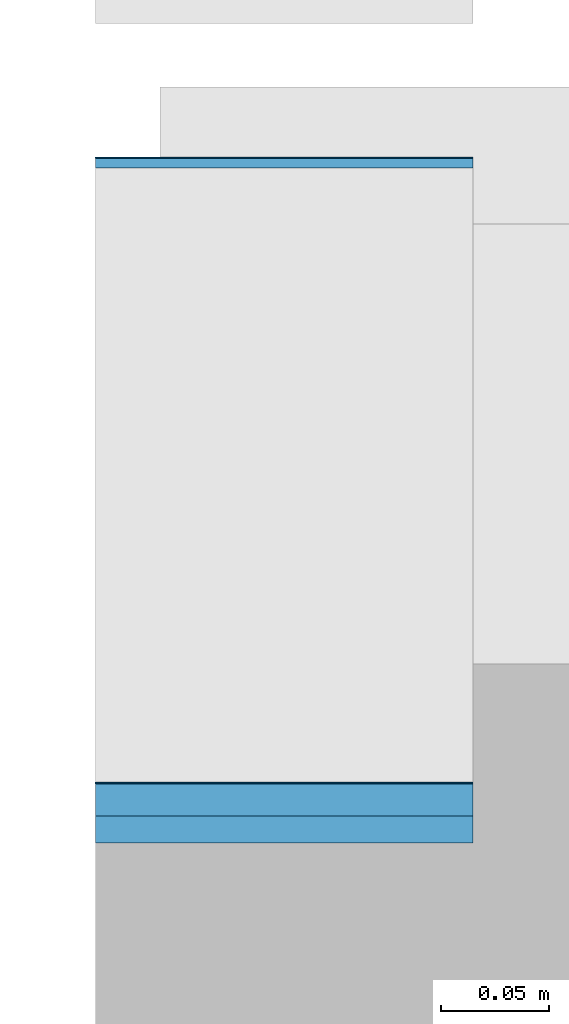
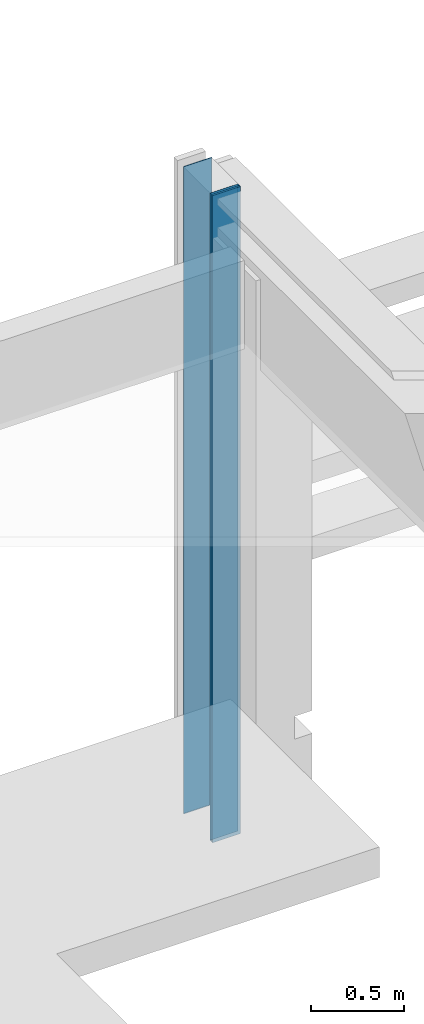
# One storey, part 27 of 54: 5 building element parts, 1 element without a shape of its own.
"""IFC2X3 building model written with IfcOpenShell, lengths in millimetres."""

from ifc_helpers import new_model, entity, si_unit, converted_unit, derived_unit, money_unit, direction, frame, origin_with_axes, place, context, subcontext, project, spatial, faceted_brep, material, type_object, element, aggregate, save


model = new_model("IFC2X3")

# Units and contexts
model_context = context("Model", 3, precision=0.01, world=origin_with_axes(), true_north=direction((0.0, 1.0)))
body_context = subcontext(model_context, "Body", "Model", "MODEL_VIEW")
ifc_project = project(units=[si_unit("LENGTHUNIT", "METRE", prefix="MILLI"), si_unit("AREAUNIT", "SQUARE_METRE"), si_unit("VOLUMEUNIT", "CUBIC_METRE"), converted_unit("PLANEANGLEUNIT", "DEGREE", entity("IfcPlaneAngleMeasure", 0.0174532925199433), si_unit("PLANEANGLEUNIT", "RADIAN"), dimensions=[0, 0, 0, 0, 0, 0, 0]), money_unit("EUR"), converted_unit("TIMEUNIT", "Year", entity("IfcTimeMeasure", 31557600.0), si_unit("TIMEUNIT", "SECOND"), dimensions=[0, 0, 1, 0, 0, 0, 0]), si_unit("MASSUNIT", "GRAM", prefix="KILO"), si_unit("THERMODYNAMICTEMPERATUREUNIT", "DEGREE_CELSIUS"), si_unit("LUMINOUSINTENSITYUNIT", "LUMEN"), si_unit("ENERGYUNIT", "JOULE", prefix="MEGA"), derived_unit("THERMALCONDUCTANCEUNIT", [(si_unit("POWERUNIT", "WATT"), 1), (si_unit("LENGTHUNIT", "METRE"), -1), (si_unit("THERMODYNAMICTEMPERATUREUNIT", "KELVIN"), -1)]), derived_unit("SPECIFICHEATCAPACITYUNIT", [(si_unit("ENERGYUNIT", "JOULE"), 1), (si_unit("MASSUNIT", "GRAM", prefix="KILO"), -1), (si_unit("THERMODYNAMICTEMPERATUREUNIT", "KELVIN"), -1)]), derived_unit("MASSDENSITYUNIT", [(si_unit("MASSUNIT", "GRAM", prefix="KILO"), 1), (si_unit("VOLUMEUNIT", "CUBIC_METRE"), -1)])], contexts=[model_context])

# Site, building, storey
site_placement = place(None, origin_with_axes())
site = spatial("IfcSite", under=ifc_project, at=site_placement, Name="<site naam>", CompositionType="ELEMENT")
building_placement = place(site_placement, origin_with_axes())
building = spatial("IfcBuilding", under=site, at=building_placement, Name="<Naam gebouw>", CompositionType="ELEMENT")
storey_placement = place(building_placement, frame((0.0, 0.0, 8500.0), z_axis=(0.0, 0.0, 1.0), x_axis=(1.0, 0.0, 0.0)))
storey = spatial("IfcBuildingStorey", under=building, at=storey_placement, Name="02 2e verdieping", CompositionType="ELEMENT", Elevation=8500.0)

# Wall, building element parts
wall_type = type_object("IfcWallType", Name="HSB_285 gevelbeplating 420", PredefinedType="NOTDEFINED")
wall_placement = place(storey_placement, frame((51825.00000000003, 20297.99999999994, 0.0), z_axis=(0.0, 0.0, 1.0), x_axis=(1.0, 0.0, 0.0)))
wall = element("IfcWall", 1, at=wall_placement, inside=storey, type_object=wall_type, Name="21_Binnenwand_HSB_285")
ifc_material_1 = material(Name="folie_dampopen")
building_element_part_1_placement = place(wall_placement, origin_with_axes())
building_element_part_1 = element("IfcBuildingElementPart", 2, at=building_element_part_1_placement, material=ifc_material_1, Name="folie_dampopen", context=body_context, shape_type="Brep", body=[
    faceted_brep([(174.999474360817, -102.4999999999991, 4270.0), (174.999474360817, -102.0000000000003, 4270.0), (0.0, -102.0000000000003, 4270.0), (0.0, -102.4999999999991, 4270.0), (174.999474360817, -102.4999999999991, 0.0), (174.999474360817, -102.0000000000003, 0.0), (0.0, -102.0000000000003, 0.0), (0.0, -102.4999999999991, 0.0)], [[[0, 1, 2, 3]], [[0, 4, 5, 1]], [[1, 5, 6, 2]], [[3, 2, 6, 7]], [[4, 0, 3, 7]], [[5, 4, 7, 6]]]),
])
ifc_material_2 = material(Name="brandwerende_bekleding")
building_element_part_2_placement = place(wall_placement, origin_with_axes())
building_element_part_2 = element("IfcBuildingElementPart", 3, at=building_element_part_2_placement, material=ifc_material_2, Name="brandwerende_bekleding", context=body_context, shape_type="Brep", body=[
    faceted_brep([(174.999474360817, -106.9999999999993, 4270.0), (174.999474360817, -102.4999999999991, 4270.0), (0.0, -102.4999999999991, 4270.0), (0.0, -106.9999999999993, 4270.0), (174.999474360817, -106.9999999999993, 0.0), (174.999474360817, -102.4999999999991, 0.0), (0.0, -102.4999999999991, 0.0), (0.0, -106.9999999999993, 0.0)], [[[0, 1, 2, 3]], [[0, 4, 5, 1]], [[1, 5, 6, 2]], [[3, 2, 6, 7]], [[4, 0, 3, 7]], [[5, 4, 7, 6]]]),
])
ifc_material_3 = material(Name="folie_dampdicht")
building_element_part_3_placement = place(wall_placement, origin_with_axes())
building_element_part_3 = element("IfcBuildingElementPart", 4, at=building_element_part_3_placement, material=ifc_material_3, Name="folie_dampdicht", context=body_context, shape_type="Brep", body=[
    faceted_brep([(174.999474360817, -392.4999999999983, 4270.0), (174.999474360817, -391.9999999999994, 4270.0), (0.0, -391.9999999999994, 4270.0), (0.0, -392.4999999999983, 4270.0), (174.999474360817, -392.4999999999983, 0.0), (174.999474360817, -391.9999999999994, 0.0), (0.0, -391.9999999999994, 0.0), (0.0, -392.4999999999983, 0.0)], [[[0, 1, 2, 3]], [[0, 4, 5, 1]], [[1, 5, 6, 2]], [[3, 2, 6, 7]], [[4, 0, 3, 7]], [[5, 4, 7, 6]]]),
])
ifc_material_4 = material(Name="hout_OSB")
building_element_part_4_placement = place(wall_placement, origin_with_axes())
building_element_part_4 = element("IfcBuildingElementPart", 5, at=building_element_part_4_placement, material=ifc_material_4, Name="hout_OSB", context=body_context, shape_type="Brep", body=[
    faceted_brep([(174.999474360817, -407.4999999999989, 4270.0), (174.999474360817, -392.4999999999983, 4270.0), (0.0, -392.4999999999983, 4270.0), (0.0, -407.4999999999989, 4270.0), (174.999474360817, -407.4999999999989, 0.0), (174.999474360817, -392.4999999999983, 0.0), (0.0, -392.4999999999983, 0.0), (0.0, -407.4999999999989, 0.0)], [[[0, 1, 2, 3]], [[0, 4, 5, 1]], [[1, 5, 6, 2]], [[3, 2, 6, 7]], [[4, 0, 3, 7]], [[5, 4, 7, 6]]]),
])
ifc_material_5 = material(Name="gipsplaat")
building_element_part_5_placement = place(wall_placement, origin_with_axes())
building_element_part_5 = element("IfcBuildingElementPart", 6, at=building_element_part_5_placement, material=ifc_material_5, Name="gipsplaat", context=body_context, shape_type="Brep", body=[
    faceted_brep([(174.999474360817, -419.9999999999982, 4270.0), (174.999474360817, -407.4999999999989, 4270.0), (0.0, -407.4999999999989, 4270.0), (0.0, -419.9999999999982, 4270.0), (174.999474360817, -420.0000000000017, 0.0), (174.999474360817, -407.4999999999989, 0.0), (0.0, -407.4999999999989, 0.0), (0.0, -420.0000000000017, 0.0)], [[[0, 1, 2, 3]], [[0, 4, 5, 1]], [[1, 5, 6, 2]], [[3, 2, 6, 7]], [[4, 0, 3, 7]], [[5, 4, 7, 6]]]),
])
aggregate(wall, [building_element_part_1, building_element_part_2, building_element_part_3, building_element_part_4, building_element_part_5])

save(model, "model.ifc")
